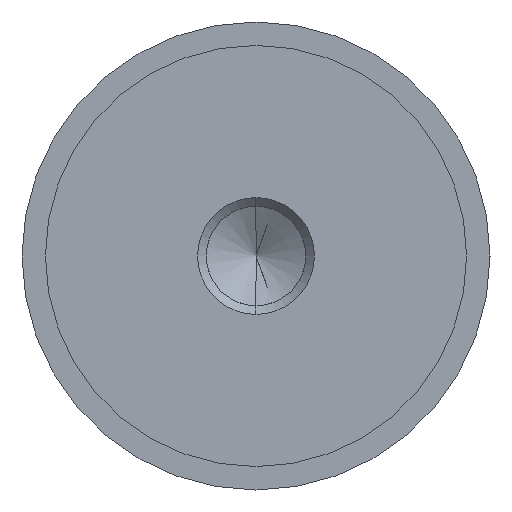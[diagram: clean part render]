
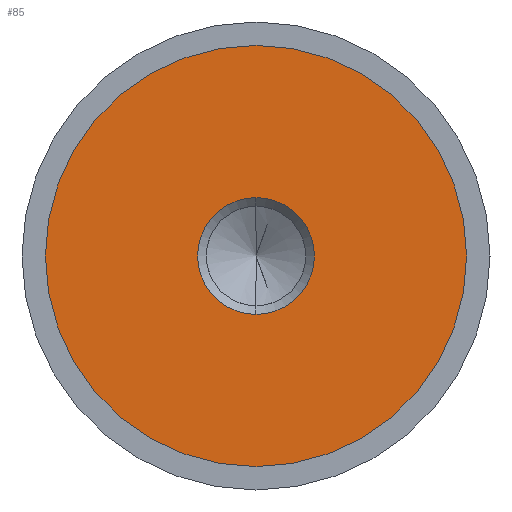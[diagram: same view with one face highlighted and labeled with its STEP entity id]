
A CAD part, left-side view. The second image highlights one B-rep face of the part: STEP entity #85.
In plain terms, the highlighted planar face has unit normal (-1, 0, 0).
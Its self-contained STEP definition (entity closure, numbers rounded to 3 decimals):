
#27 = CIRCLE ( 'NONE', #60, 4.99 ) ;
#47 = EDGE_LOOP ( 'NONE', ( #752, #675 ) ) ;
#60 = AXIS2_PLACEMENT_3D ( 'NONE', #80, #149, #89 ) ;
#77 = EDGE_LOOP ( 'NONE', ( #673, #741 ) ) ;
#80 = CARTESIAN_POINT ( 'NONE',  ( -19.99, 0., 0. ) ) ;
#82 = DIRECTION ( 'NONE',  ( -1., 0., 0. ) ) ;
#85 = ADVANCED_FACE ( 'NONE', ( #526, #757 ), #516, .F. ) ;
#86 = DIRECTION ( 'NONE',  ( 0., 0., -1. ) ) ;
#89 = DIRECTION ( 'NONE',  ( 0., 0., -1. ) ) ;
#111 = DIRECTION ( 'NONE',  ( 0., 0., -1. ) ) ;
#124 = CIRCLE ( 'NONE', #411, 18. ) ;
#149 = DIRECTION ( 'NONE',  ( 1., 0., 0. ) ) ;
#202 = DIRECTION ( 'NONE',  ( 1., 0., 0. ) ) ;
#240 = DIRECTION ( 'NONE',  ( 0., 0., 1. ) ) ;
#270 = CIRCLE ( 'NONE', #718, 18. ) ;
#305 = DIRECTION ( 'NONE',  ( -1., 0., 0. ) ) ;
#324 = AXIS2_PLACEMENT_3D ( 'NONE', #444, #202, #86 ) ;
#335 = DIRECTION ( 'NONE',  ( 1., 0., 0. ) ) ;
#339 = EDGE_CURVE ( 'NONE', #378, #594, #124, .T. ) ;
#344 = CARTESIAN_POINT ( 'NONE',  ( -19.99, 18., 0. ) ) ;
#372 = CARTESIAN_POINT ( 'NONE',  ( -19.99, 0., 18. ) ) ;
#378 = VERTEX_POINT ( 'NONE', #372 ) ;
#390 = EDGE_CURVE ( 'NONE', #614, #729, #27, .T. ) ;
#411 = AXIS2_PLACEMENT_3D ( 'NONE', #784, #305, #240 ) ;
#425 = AXIS2_PLACEMENT_3D ( 'NONE', #344, #335, #111 ) ;
#444 = CARTESIAN_POINT ( 'NONE',  ( -19.99, 0., 0. ) ) ;
#471 = EDGE_CURVE ( 'NONE', #729, #614, #593, .T. ) ;
#509 = CARTESIAN_POINT ( 'NONE',  ( -19.99, 0., 4.99 ) ) ;
#516 = PLANE ( 'NONE',  #425 ) ;
#526 = FACE_BOUND ( 'NONE', #47, .T. ) ;
#534 = CARTESIAN_POINT ( 'NONE',  ( -19.99, 0., -18. ) ) ;
#593 = CIRCLE ( 'NONE', #324, 4.99 ) ;
#594 = VERTEX_POINT ( 'NONE', #534 ) ;
#614 = VERTEX_POINT ( 'NONE', #779 ) ;
#624 = EDGE_CURVE ( 'NONE', #594, #378, #270, .T. ) ;
#655 = CARTESIAN_POINT ( 'NONE',  ( -19.99, 0., 0. ) ) ;
#673 = ORIENTED_EDGE ( 'NONE', *, *, #339, .T. ) ;
#675 = ORIENTED_EDGE ( 'NONE', *, *, #390, .T. ) ;
#718 = AXIS2_PLACEMENT_3D ( 'NONE', #655, #82, #772 ) ;
#729 = VERTEX_POINT ( 'NONE', #509 ) ;
#741 = ORIENTED_EDGE ( 'NONE', *, *, #624, .T. ) ;
#752 = ORIENTED_EDGE ( 'NONE', *, *, #471, .T. ) ;
#757 = FACE_OUTER_BOUND ( 'NONE', #77, .T. ) ;
#772 = DIRECTION ( 'NONE',  ( 0., 0., 1. ) ) ;
#779 = CARTESIAN_POINT ( 'NONE',  ( -19.99, 0., -4.99 ) ) ;
#784 = CARTESIAN_POINT ( 'NONE',  ( -19.99, 0., 0. ) ) ;
